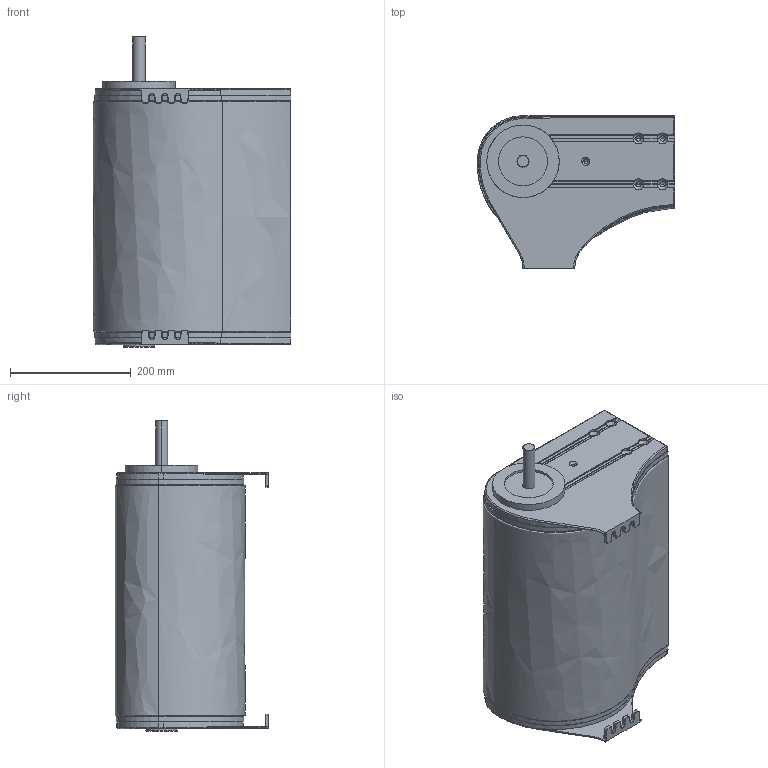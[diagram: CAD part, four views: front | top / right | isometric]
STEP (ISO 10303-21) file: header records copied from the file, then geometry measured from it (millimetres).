
FILE_DESCRIPTION (( 'STEP AP214' ), '1' );
FILE_NAME ('F2 1500 MDG20.step', '2017-04-05T06:48:08', ( '' ), ( '' ), 'SwSTEP 2.0', 'SolidWorks 2015', '' );
FILE_SCHEMA (( 'AUTOMOTIVE_DESIGN' ));
Length unit declared in the file: millimetre
Products named in the file (1): F2 1500 MDG20
Bounding box: 326.6 x 254.22 x 514.55 mm (x, y, z)
Volume: 24983039.4 mm3; surface area: 560643.1 mm2
Topology: 1 solids, 1 shells, 580 faces, 1484 edges, 887 vertices
Faces by surface type: cylinder 249, plane 152, torus 113, cone 42, bspline 24
Entity records: 20004 total; most frequent: CARTESIAN_POINT 5519, DIRECTION 2992, ORIENTED_EDGE 2920, EDGE_CURVE 1460, AXIS2_PLACEMENT_3D 1191, VERTEX_POINT 887, CIRCLE 634, LINE 610
